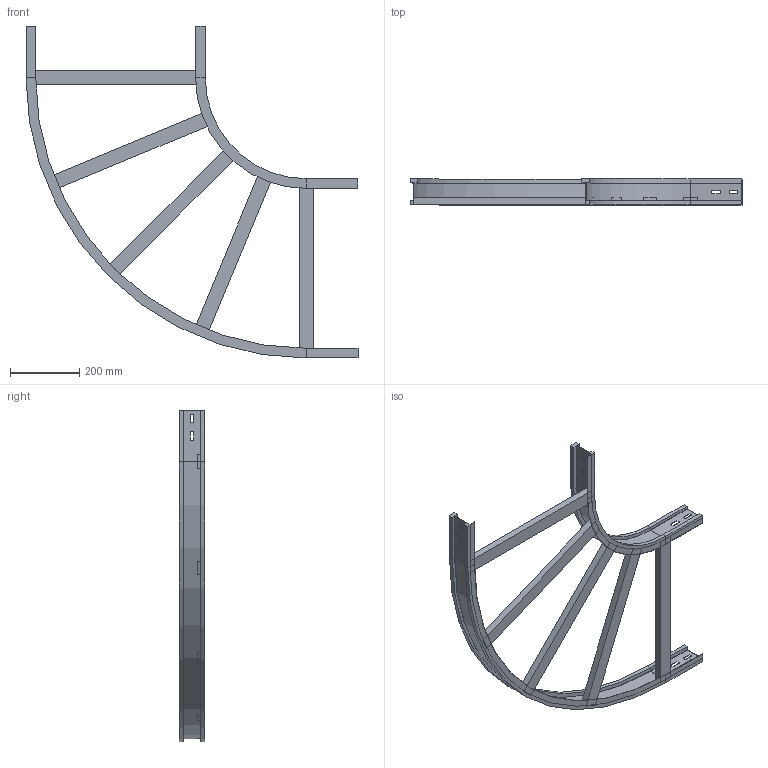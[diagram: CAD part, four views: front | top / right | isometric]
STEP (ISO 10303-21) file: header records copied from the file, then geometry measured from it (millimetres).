
FILE_DESCRIPTION (( 'STEP AP214' ), '1' );
FILE_NAME ('10S3C500.step', '2025-02-21T16:11:20', ( '' ), ( '' ), 'SwSTEP 2.0', 'SolidWorks 2023', '' );
FILE_SCHEMA (( 'AUTOMOTIVE_DESIGN' ));
Length unit declared in the file: millimetre
Products named in the file (4): TRAVERSINO_500; LONGH.INTERNO 90°_H75_R300; LONGH.ESTERNO 90°_H75_R300+500; 10S3C500
Assembly tree (7 placements, depth 2):
  10S3C500
    LONGH.INTERNO 90°_H75_R300
    LONGH.ESTERNO 90°_H75_R300+500
    TRAVERSINO_500  x5
Bounding box: 959 x 75 x 959 mm (x, y, z)
Volume: 3157210.9 mm3; surface area: 882957.4 mm2
Topology: 7 solids, 7 shells, 138 faces, 324 edges, 200 vertices
Faces by surface type: plane 126, cylinder 12
Entity records: 3405 total; most frequent: CARTESIAN_POINT 568, ORIENTED_EDGE 552, DIRECTION 548, EDGE_CURVE 276, VECTOR 252, LINE 252, VERTEX_POINT 168, AXIS2_PLACEMENT_3D 148
